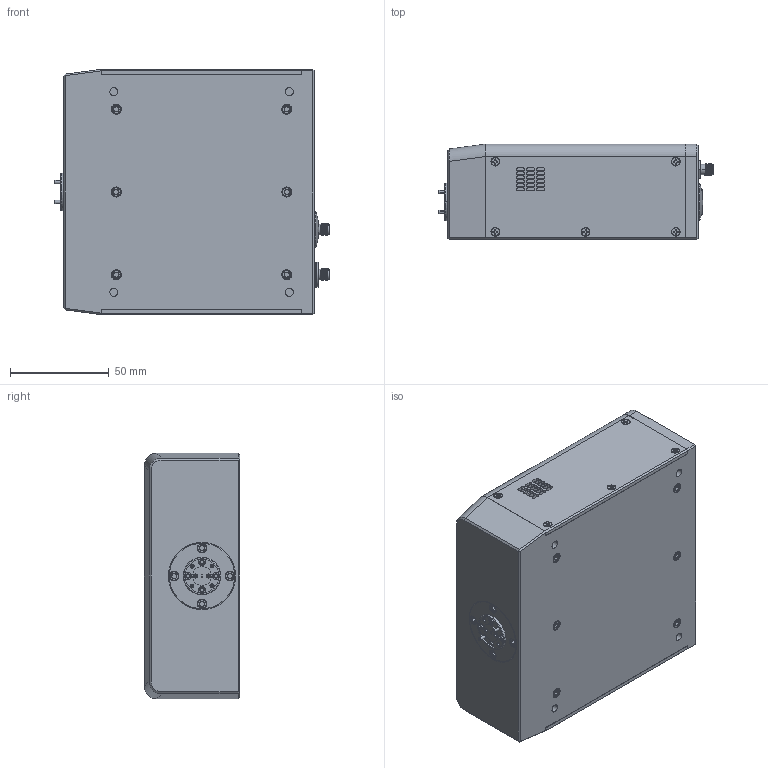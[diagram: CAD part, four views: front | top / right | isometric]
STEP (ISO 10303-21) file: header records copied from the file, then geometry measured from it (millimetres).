
FILE_DESCRIPTION (( 'STEP AP214' ), '1' );
FILE_NAME ('TC-G-A, Defeatured, Mountable.STEP', '2024-05-08T18:49:41', ( '' ), ( '' ), 'SwSTEP 2.0', 'SolidWorks 2021', '' );
FILE_SCHEMA (( 'AUTOMOTIVE_DESIGN' ));
Length unit declared in the file: inch
Products named in the file (1): TC-G-A, Defeatured, Mountable
Bounding box: 139.21 x 48.26 x 124.32 mm (x, y, z)
Volume: 750433 mm3; surface area: 101068.3 mm2
Topology: 5 solids, 5 shells, 1482 faces, 3892 edges, 2508 vertices
Faces by surface type: plane 722, cylinder 487, cone 264, bspline 6, torus 2, sphere 1
Entity records: 65204 total; most frequent: CARTESIAN_POINT 11401, ORIENTED_EDGE 7772, DIRECTION 7382, EDGE_CURVE 3886, AXIS2_PLACEMENT_3D 2662, VERTEX_POINT 2507, VECTOR 2058, LINE 2058
